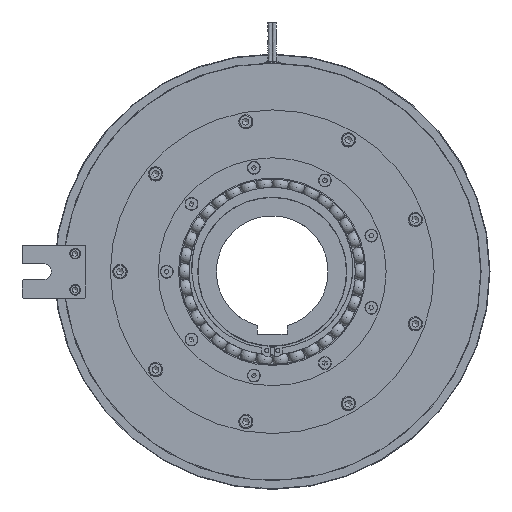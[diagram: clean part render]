
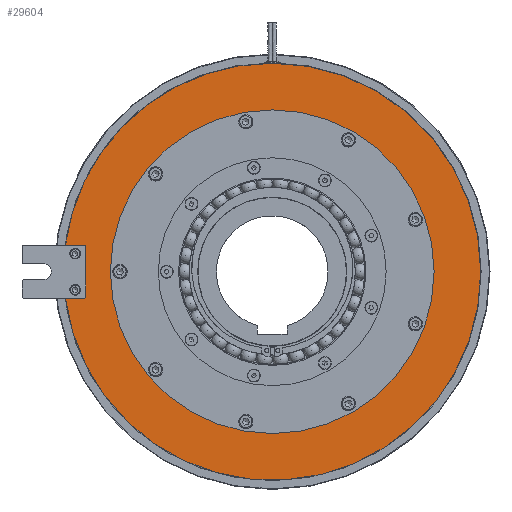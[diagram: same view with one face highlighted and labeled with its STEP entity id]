
A CAD part, left-side view. The second image highlights one B-rep face of the part: STEP entity #29604.
In plain terms, the highlighted planar face has unit normal (-1, 0, 0).
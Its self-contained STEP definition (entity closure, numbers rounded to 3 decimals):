
#1100=FACE_BOUND('',#4837,.T.);
#1665=PLANE('',#32926);
#2984=FACE_OUTER_BOUND('',#4836,.T.);
#4836=EDGE_LOOP('',(#25413,#25414,#25415,#25416,#25417,#25418,#25419,#25420));
#4837=EDGE_LOOP('',(#25421,#25422));
#5680=CIRCLE('',#29932,195.8);
#5683=CIRCLE('',#29935,195.8);
#7008=CIRCLE('',#32268,2.);
#7012=CIRCLE('',#32277,2.);
#7108=CIRCLE('',#32441,152.);
#7109=CIRCLE('',#32442,152.);
#7416=CIRCLE('',#32927,195.8);
#8788=LINE('',#52169,#10285);
#8794=LINE('',#52190,#10291);
#8799=LINE('',#52200,#10296);
#10285=VECTOR('',#39287,10.);
#10291=VECTOR('',#39311,10.);
#10296=VECTOR('',#39324,10.);
#10793=VERTEX_POINT('',#42480);
#10794=VERTEX_POINT('',#42482);
#10796=VERTEX_POINT('',#42486);
#10797=VERTEX_POINT('',#42488);
#12688=VERTEX_POINT('',#52160);
#12689=VERTEX_POINT('',#52162);
#12695=VERTEX_POINT('',#52184);
#12696=VERTEX_POINT('',#52186);
#12843=VERTEX_POINT('',#52655);
#12844=VERTEX_POINT('',#52656);
#13908=EDGE_CURVE('',#10794,#10793,#5680,.T.);
#13911=EDGE_CURVE('',#10797,#10796,#5683,.T.);
#16627=EDGE_CURVE('',#12689,#12688,#7008,.T.);
#16631=EDGE_CURVE('',#12688,#10794,#8788,.T.);
#16639=EDGE_CURVE('',#12696,#12695,#7012,.T.);
#16641=EDGE_CURVE('',#12695,#12689,#8794,.T.);
#16647=EDGE_CURVE('',#10796,#12696,#8799,.T.);
#16837=EDGE_CURVE('',#12843,#12844,#7108,.T.);
#16838=EDGE_CURVE('',#12844,#12843,#7109,.T.);
#17490=EDGE_CURVE('',#10793,#10797,#7416,.T.);
#25413=ORIENTED_EDGE('',*,*,#16631,.T.);
#25414=ORIENTED_EDGE('',*,*,#13908,.T.);
#25415=ORIENTED_EDGE('',*,*,#17490,.T.);
#25416=ORIENTED_EDGE('',*,*,#13911,.T.);
#25417=ORIENTED_EDGE('',*,*,#16647,.T.);
#25418=ORIENTED_EDGE('',*,*,#16639,.T.);
#25419=ORIENTED_EDGE('',*,*,#16641,.T.);
#25420=ORIENTED_EDGE('',*,*,#16627,.T.);
#25421=ORIENTED_EDGE('',*,*,#16837,.T.);
#25422=ORIENTED_EDGE('',*,*,#16838,.T.);
#29604=ADVANCED_FACE('',(#2984,#1100),#1665,.T.);
#29932=AXIS2_PLACEMENT_3D('',#42483,#33620,#33621);
#29935=AXIS2_PLACEMENT_3D('',#42489,#33626,#33627);
#32268=AXIS2_PLACEMENT_3D('',#52163,#39280,#39281);
#32277=AXIS2_PLACEMENT_3D('',#52187,#39306,#39307);
#32441=AXIS2_PLACEMENT_3D('',#52657,#39708,#39709);
#32442=AXIS2_PLACEMENT_3D('',#52658,#39710,#39711);
#32926=AXIS2_PLACEMENT_3D('',#60294,#40751,#40752);
#32927=AXIS2_PLACEMENT_3D('',#60295,#40753,#40754);
#33620=DIRECTION('center_axis',(-1.,0.,0.));
#33621=DIRECTION('ref_axis',(0.,1.,0.));
#33626=DIRECTION('center_axis',(-1.,0.,0.));
#33627=DIRECTION('ref_axis',(0.,1.,0.));
#39280=DIRECTION('center_axis',(1.,0.,0.));
#39281=DIRECTION('ref_axis',(0.,-0.707,-0.707));
#39287=DIRECTION('',(0.,1.,0.));
#39306=DIRECTION('center_axis',(1.,0.,0.));
#39307=DIRECTION('ref_axis',(0.,-0.707,0.707));
#39311=DIRECTION('',(0.,0.,-1.));
#39324=DIRECTION('',(0.,-1.,0.));
#39708=DIRECTION('center_axis',(1.,0.,0.));
#39709=DIRECTION('ref_axis',(0.,1.,0.));
#39710=DIRECTION('center_axis',(1.,0.,0.));
#39711=DIRECTION('ref_axis',(0.,1.,0.));
#40751=DIRECTION('center_axis',(-1.,0.,0.));
#40752=DIRECTION('ref_axis',(0.,0.,
1.));
#40753=DIRECTION('center_axis',(-1.,0.,0.));
#40754=DIRECTION('ref_axis',(0.,1.,0.));
#42480=CARTESIAN_POINT('',(-92.7,-195.8,0.));
#42482=CARTESIAN_POINT('',(-92.7,194.197,-25.));
#42483=CARTESIAN_POINT('Origin',(-92.7,0.,0.));
#42486=CARTESIAN_POINT('',(-92.7,194.197,25.));
#42488=CARTESIAN_POINT('',(-92.7,0.,195.8));
#42489=CARTESIAN_POINT('Origin',(-92.7,0.,0.));
#52160=CARTESIAN_POINT('',(-92.7,177.,-25.));
#52162=CARTESIAN_POINT('',(-92.7,175.,-23.));
#52163=CARTESIAN_POINT('Origin',(-92.7,177.,-23.));
#52169=CARTESIAN_POINT('',(-92.7,170.2,-25.));
#52184=CARTESIAN_POINT('',(-92.7,175.,23.));
#52186=CARTESIAN_POINT('',(-92.7,177.,25.));
#52187=CARTESIAN_POINT('Origin',(-92.7,177.,23.));
#52190=CARTESIAN_POINT('',(-92.7,175.,12.5));
#52200=CARTESIAN_POINT('',(-92.7,200.2,25.));
#52655=CARTESIAN_POINT('',(-92.7,152.,0.));
#52656=CARTESIAN_POINT('',(-92.7,-152.,0.));
#52657=CARTESIAN_POINT('Origin',(-92.7,0.,0.));
#52658=CARTESIAN_POINT('Origin',(-92.7,0.,0.));
#60294=CARTESIAN_POINT('Origin',(-92.7,165.4,0.));
#60295=CARTESIAN_POINT('Origin',(-92.7,0.,0.));
